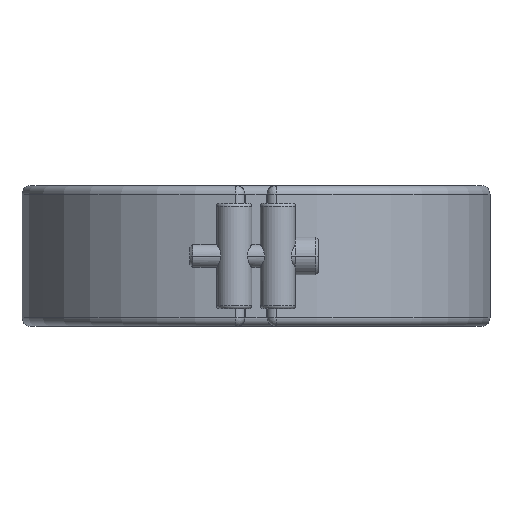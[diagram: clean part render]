
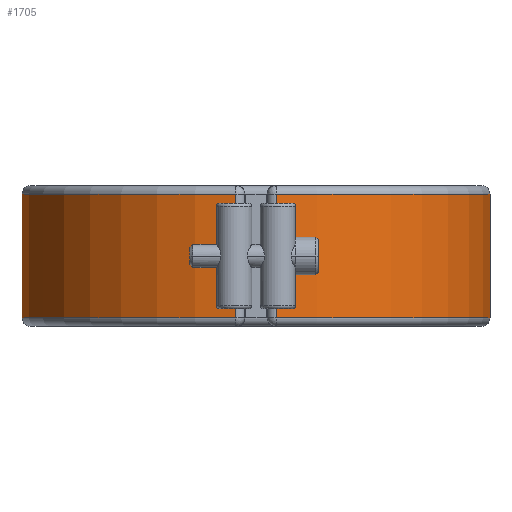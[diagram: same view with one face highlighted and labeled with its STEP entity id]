
A CAD part, front view. The second image highlights one B-rep face of the part: STEP entity #1705.
In plain terms, the highlighted cylindrical face has radius 42.418 mm (diameter 84.836 mm), a partial arc.
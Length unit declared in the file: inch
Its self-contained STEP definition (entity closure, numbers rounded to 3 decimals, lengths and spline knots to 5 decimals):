
#1263=DIRECTION('',(0.,0.,-1.));
#1264=VECTOR('',#1263,0.88);
#1265=CARTESIAN_POINT('',(0.1456,-1.66364,-0.06));
#1266=LINE('',#1265,#1264);
#1267=CARTESIAN_POINT('',(0.,0.,-0.06));
#1268=DIRECTION('',(0.,0.,1.));
#1269=DIRECTION('',(0.087,-0.996,0.));
#1270=AXIS2_PLACEMENT_3D('',#1267,#1268,#1269);
#1272=DIRECTION('',(0.,0.,-1.));
#1273=VECTOR('',#1272,0.88);
#1274=CARTESIAN_POINT('',(-0.1456,-1.66364,-0.06));
#1275=LINE('',#1274,#1273);
#1276=CARTESIAN_POINT('',(0.,0.,-0.94));
#1277=DIRECTION('',(0.,0.,-1.));
#1278=DIRECTION('',(-0.087,-0.996,0.));
#1279=AXIS2_PLACEMENT_3D('',#1276,#1277,#1278);
#1281=CARTESIAN_POINT('',(-0.16,1.66232,
-0.5));
#1282=CARTESIAN_POINT('',(-0.16,1.66232,
-0.48867));
#1283=CARTESIAN_POINT('',(-0.15766,1.66255,
-0.46651));
#1284=CARTESIAN_POINT('',(-0.14707,1.66353,
-0.43395));
#1285=CARTESIAN_POINT('',(-0.12986,1.66498,
-0.40453));
#1286=CARTESIAN_POINT('',(-0.10729,1.66661,
-0.37974));
#1287=CARTESIAN_POINT('',(-0.07993,1.66817,
-0.36002));
#1288=CARTESIAN_POINT('',(-0.04815,1.66943,
-0.346));
#1289=CARTESIAN_POINT('',(-0.01328,1.67005,
-0.33952));
#1290=CARTESIAN_POINT('',(0.01588,1.67002,
-0.33975));
#1291=CARTESIAN_POINT('',(0.05054,1.66935,
-0.3468));
#1292=CARTESIAN_POINT('',(0.08149,1.66809,
-0.36099));
#1293=CARTESIAN_POINT('',(0.10822,1.66655,
-0.38062));
#1294=CARTESIAN_POINT('',(0.13034,1.66494,
-0.40523));
#1295=CARTESIAN_POINT('',(0.14722,1.66352,
-0.43436));
#1296=CARTESIAN_POINT('',(0.15765,1.66255,
-0.46656));
#1297=CARTESIAN_POINT('',(0.16,1.66232,
-0.48867));
#1298=CARTESIAN_POINT('',(0.16,1.66232,
-0.5));
#1300=CARTESIAN_POINT('',(0.16,1.66232,
-0.5));
#1301=CARTESIAN_POINT('',(0.16,1.66232,
-0.5113));
#1302=CARTESIAN_POINT('',(0.15767,1.66254,
-0.53341));
#1303=CARTESIAN_POINT('',(0.14714,1.66352,
-0.56588));
#1304=CARTESIAN_POINT('',(0.13002,1.66497,
-0.59524));
#1305=CARTESIAN_POINT('',(0.10755,1.6666,
-0.62002));
#1306=CARTESIAN_POINT('',(0.08029,1.66815,
-0.63976));
#1307=CARTESIAN_POINT('',(0.04863,1.66941,
-0.65385));
#1308=CARTESIAN_POINT('',(0.01378,1.67004,
-0.66045));
#1309=CARTESIAN_POINT('',(-0.01546,1.67003,
-0.6603));
#1310=CARTESIAN_POINT('',(-0.05025,1.66936,
-0.65331));
#1311=CARTESIAN_POINT('',(-0.08132,1.6681,
-0.63912));
#1312=CARTESIAN_POINT('',(-0.10813,1.66656,
-0.61947));
#1313=CARTESIAN_POINT('',(-0.13031,1.66495,
-0.59481));
#1314=CARTESIAN_POINT('',(-0.14723,1.66352,
-0.56562));
#1315=CARTESIAN_POINT('',(-0.15767,1.66254,
-0.53338));
#1316=CARTESIAN_POINT('',(-0.16,1.66232,
-0.5113));
#1317=CARTESIAN_POINT('',(-0.16,1.66232,
-0.5));
#1522=CARTESIAN_POINT('',(0.1456,-1.66364,-0.06));
#1523=CARTESIAN_POINT('',(0.1456,-1.66364,-0.94));
#1524=VERTEX_POINT('',#1522);
#1525=VERTEX_POINT('',#1523);
#1548=CARTESIAN_POINT('',(-0.1456,-1.66364,-0.06));
#1549=VERTEX_POINT('',#1548);
#1554=CARTESIAN_POINT('',(-0.1456,-1.66364,-0.94));
#1555=VERTEX_POINT('',#1554);
#1582=VERTEX_POINT('',#1281);
#1583=VERTEX_POINT('',#1298);
#1686=CARTESIAN_POINT('',(0.,0.,0.));
#1687=DIRECTION('',(0.,0.,1.));
#1688=DIRECTION('',(1.,0.,0.));
#1689=AXIS2_PLACEMENT_3D('',#1686,#1687,#1688);
#1690=CYLINDRICAL_SURFACE('',#1689,1.67);
#1692=ORIENTED_EDGE('',*,*,#1691,.F.);
#1694=ORIENTED_EDGE('',*,*,#1693,.T.);
#1695=ORIENTED_EDGE('',*,*,#1653,.T.);
#1696=ORIENTED_EDGE('',*,*,#1677,.T.);
#1697=EDGE_LOOP('',(#1692,#1694,#1695,#1696));
#1698=FACE_OUTER_BOUND('',#1697,.F.);
#1700=ORIENTED_EDGE('',*,*,#1699,.T.);
#1702=ORIENTED_EDGE('',*,*,#1701,.T.);
#1703=EDGE_LOOP('',(#1700,#1702));
#1704=FACE_BOUND('',#1703,.F.);
#1705=ADVANCED_FACE('',(#1698,#1704),#1690,.T.);
#1271=CIRCLE('',#1270,1.67);
#1280=CIRCLE('',#1279,1.67);
#1299=B_SPLINE_CURVE_WITH_KNOTS('',3,(#1281,#1282,#1283,#1284,#1285,#1286,#1287,
#1288,#1289,#1290,#1291,#1292,#1293,#1294,#1295,#1296,#1297,#1298),
.UNSPECIFIED.,.F.,.F.,(4,1,1,1,1,1,1,1,1,1,1,1,1,1,1,4),(0.,0.06667,
0.13333,0.2,0.26667,0.33333,0.4,
0.46667,0.53333,0.6,0.66667,0.73333,
0.8,0.86667,0.93333,1.),.UNSPECIFIED.);
#1318=B_SPLINE_CURVE_WITH_KNOTS('',3,(#1300,#1301,#1302,#1303,#1304,#1305,#1306,
#1307,#1308,#1309,#1310,#1311,#1312,#1313,#1314,#1315,#1316,#1317),
.UNSPECIFIED.,.F.,.F.,(4,1,1,1,1,1,1,1,1,1,1,1,1,1,1,4),(0.,0.06667,
0.13333,0.2,0.26667,0.33333,0.4,
0.46667,0.53333,0.6,0.66667,0.73333,
0.8,0.86667,0.93333,1.),.UNSPECIFIED.);
#1653=EDGE_CURVE('',#1549,#1555,#1275,.T.);
#1677=EDGE_CURVE('',#1555,#1525,#1280,.T.);
#1691=EDGE_CURVE('',#1524,#1525,#1266,.T.);
#1693=EDGE_CURVE('',#1524,#1549,#1271,.T.);
#1699=EDGE_CURVE('',#1582,#1583,#1299,.T.);
#1701=EDGE_CURVE('',#1583,#1582,#1318,.T.);
